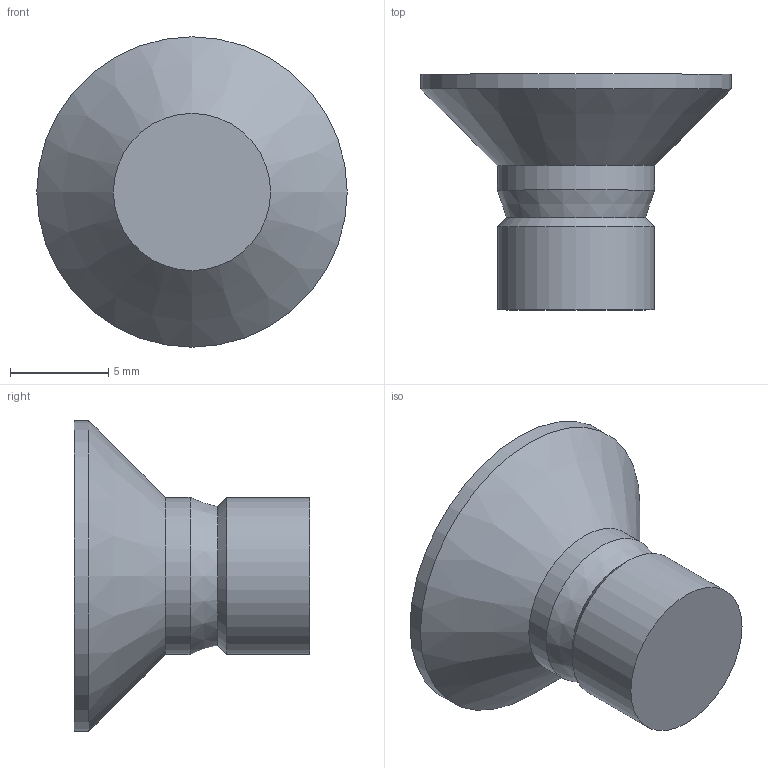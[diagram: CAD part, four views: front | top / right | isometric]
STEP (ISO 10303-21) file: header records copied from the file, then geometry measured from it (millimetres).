
FILE_DESCRIPTION(/* description */ (''),/* implementation_level */ '2;1');
FILE_NAME(/* name */ 'C:\Users\unitec\Documents\Inventor\HP\ボルト\JIS B 1111 十字穴付き皿小ねじ\IPT\CHWCSS-M8\CHWCSS-M8-12.stp',/* time_stamp */ '2016-12-24T16:30:31+09:00',/* author */ ('unitec'),/* organization */ (''),/* preprocessor_version */ 'ST-DEVELOPER v15.2',/* originating_system */ 'Autodesk Inventor 2014',/* authorisation */ '');
FILE_SCHEMA (('AUTOMOTIVE_DESIGN { 1 0 10303 214 3 1 1 }'));
Length unit declared in the file: millimetre
Products named in the file (1): CHWCSS-M8-12
Bounding box: 15.8 x 12 x 15.8 mm (x, y, z)
Volume: 895.9 mm3; surface area: 730.2 mm2
Topology: 1 solids, 1 shells, 33 faces, 77 edges, 43 vertices
Faces by surface type: plane 23, bspline 4, cylinder 3, cone 3
Full cylindrical faces by diameter (mm): 8 x2, 15.8 x1
Entity records: 1057 total; most frequent: CARTESIAN_POINT 400, ORIENTED_EDGE 134, DIRECTION 106, EDGE_CURVE 67, VERTEX_POINT 43, EDGE_LOOP 40, AXIS2_PLACEMENT_3D 37, ADVANCED_FACE 33
